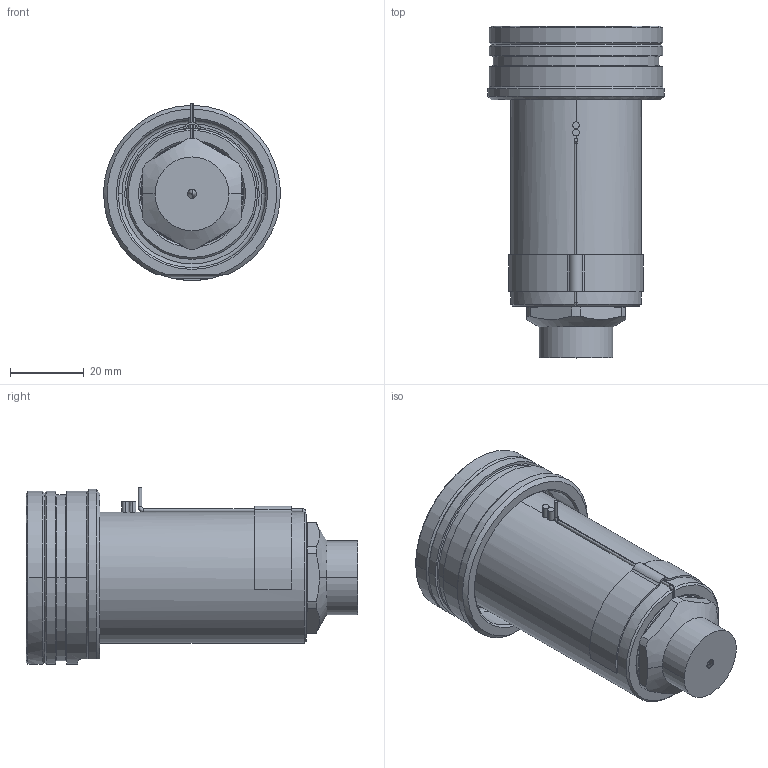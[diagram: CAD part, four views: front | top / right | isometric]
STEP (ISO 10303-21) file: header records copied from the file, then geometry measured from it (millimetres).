
FILE_DESCRIPTION((''),'2;1');
FILE_NAME('EO16_PG-FB_STD_070_SW','2024-02-19T11:40:33',('sundharh'),(''),'CREO PARAMETRIC BY PTC INC, 2023154','CREO PARAMETRIC BY PTC INC, 2023154','');
FILE_SCHEMA(('CONFIG_CONTROL_DESIGN'));
Length unit declared in the file: millimetre
Products named in the file (1): EO16_PG-FB_STD_070_SW
Bounding box: 47.97 x 90 x 48 mm (x, y, z)
Volume: 78642.2 mm3; surface area: 24106.6 mm2
Topology: 1 solids, 1 shells, 205 faces, 538 edges, 331 vertices
Faces by surface type: cylinder 81, plane 59, cone 41, torus 14, bspline 7, sphere 3
Entity records: 7386 total; most frequent: CARTESIAN_POINT 2236, DIRECTION 1139, ORIENTED_EDGE 1060, EDGE_CURVE 530, AXIS2_PLACEMENT_3D 475, VERTEX_POINT 331, CIRCLE 277, EDGE_LOOP 223
